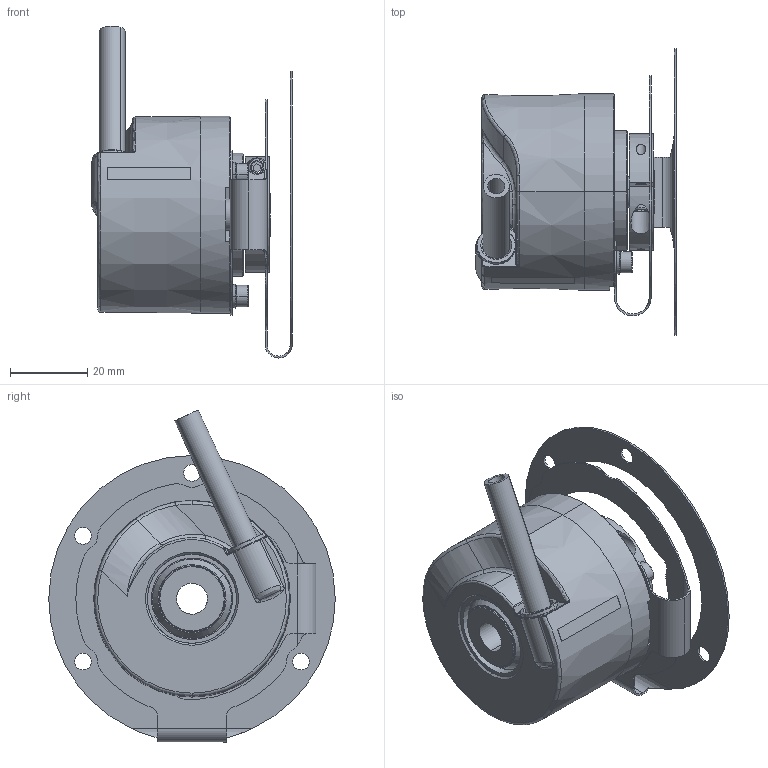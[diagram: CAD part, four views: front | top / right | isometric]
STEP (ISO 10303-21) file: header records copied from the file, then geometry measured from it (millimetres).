
FILE_DESCRIPTION (( 'STEP AP214' ), '1' );
FILE_NAME ('8.5020.89XE.XXXX.STEP', '2011-01-10T10:00:38', ( 'admin' ), ( 'Fritz Kübler GmbH' ), 'SwSTEP 2.0', 'SolidWorks 2009', '' );
FILE_SCHEMA (( 'AUTOMOTIVE_DESIGN' ));
Length unit declared in the file: millimetre
Products named in the file (1): 8.5020.89XE.XXXX
Bounding box: 51.8 x 74 x 85.74 mm (x, y, z)
Surface area: 25006.6 mm2 (no closed solid volume)
Topology: 0 solids, 16 shells, 265 faces, 798 edges, 535 vertices
Faces by surface type: cylinder 125, plane 64, cone 40, torus 19, bspline 17
Entity records: 14539 total; most frequent: CARTESIAN_POINT 4488, DIRECTION 1554, ORIENTED_EDGE 1359, EDGE_CURVE 788, AXIS2_PLACEMENT_3D 623, VERTEX_POINT 535, CIRCLE 374, LINE 308
